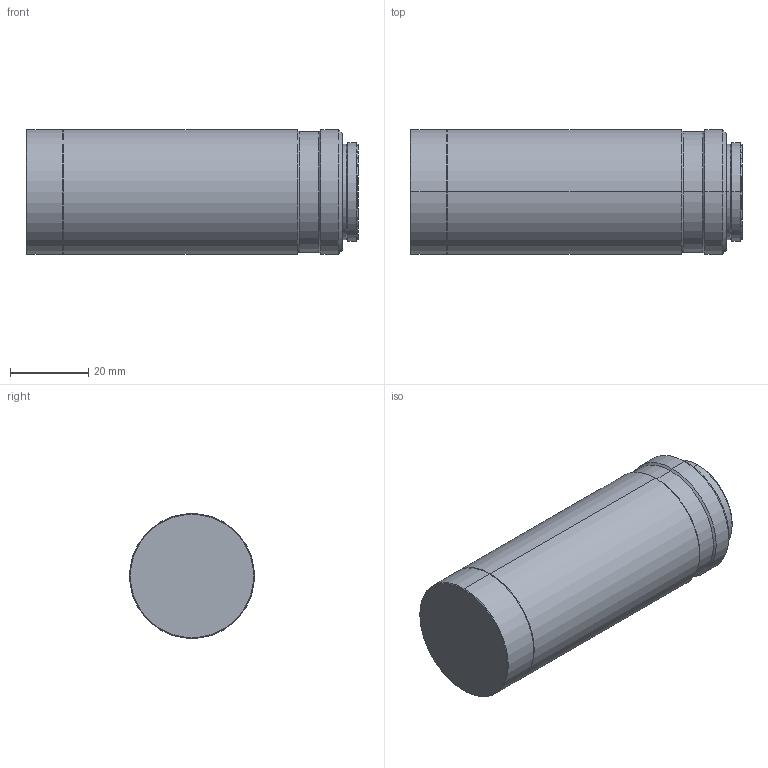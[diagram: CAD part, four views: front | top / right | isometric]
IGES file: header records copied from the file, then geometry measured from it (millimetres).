
Start section: SolidWorks IGES file using analytic representation for surfaces
Bounding box: 85 x 32 x 32 mm (x, y, z)
Surface area: 10051.5 mm2 (no closed solid volume)
Topology: 0 solids, 0 shells, 31 faces, 304 edges, 304 vertices
Faces by surface type: revolution 28, bspline 3
